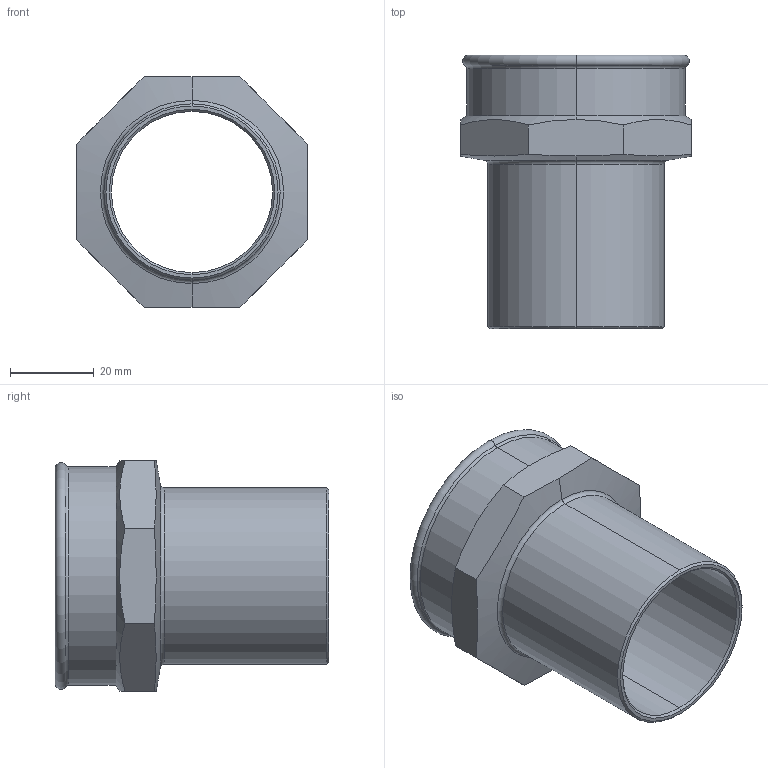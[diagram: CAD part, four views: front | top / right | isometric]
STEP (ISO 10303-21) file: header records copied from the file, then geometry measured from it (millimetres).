
FILE_DESCRIPTION (( 'STEP AP203' ), '1' );
FILE_NAME ('SP4281G Ø42 1 1-2.STEP', '2017-04-26T09:19:36', ( '' ), ( '' ), 'SwSTEP 2.0', 'SolidWorks 2016', '' );
FILE_SCHEMA (( 'CONFIG_CONTROL_DESIGN' ));
Length unit declared in the file: millimetre
Products named in the file (1): SP4281G Ø42 1 1-2
Bounding box: 55 x 65.2 x 55 mm (x, y, z)
Volume: 27421 mm3; surface area: 20012.7 mm2
Topology: 1 solids, 1 shells, 36 faces, 82 edges, 48 vertices
Faces by surface type: cone 12, plane 10, cylinder 8, torus 6
Entity records: 1185 total; most frequent: CARTESIAN_POINT 311, DIRECTION 170, ORIENTED_EDGE 164, EDGE_CURVE 82, AXIS2_PLACEMENT_3D 71, VERTEX_POINT 48, EDGE_LOOP 38, ADVANCED_FACE 36
